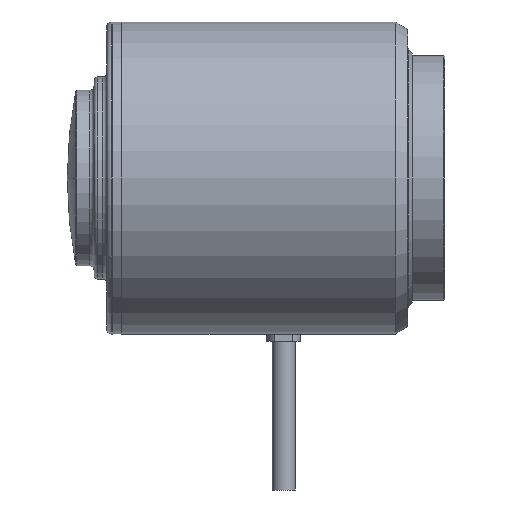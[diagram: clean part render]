
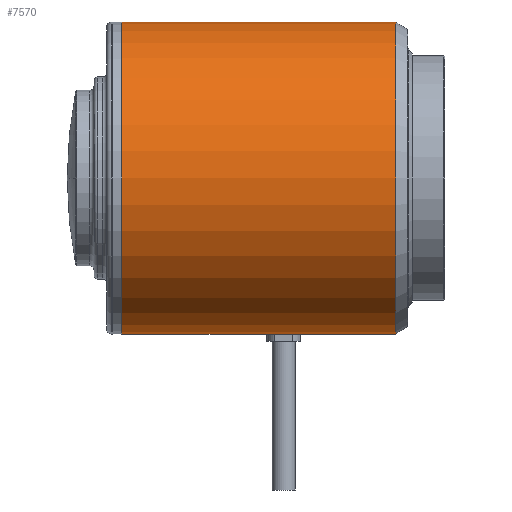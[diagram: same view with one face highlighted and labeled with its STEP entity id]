
A CAD part, left-side view. The second image highlights one B-rep face of the part: STEP entity #7570.
In plain terms, the highlighted cylindrical face has radius 52.5 mm (diameter 105 mm), a partial arc.
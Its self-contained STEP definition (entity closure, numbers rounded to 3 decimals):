
#287 = CARTESIAN_POINT ( 'NONE',  ( 0., 45.2, 0. ) ) ;
#408 = EDGE_CURVE ( 'NONE', #4599, #11577, #4860, .T. ) ;
#639 = CARTESIAN_POINT ( 'NONE',  ( 0., 45.2, -52.5 ) ) ;
#915 = VERTEX_POINT ( 'NONE', #639 ) ;
#1024 = CARTESIAN_POINT ( 'NONE',  ( 0., -47., 52.5 ) ) ;
#1039 = DIRECTION ( 'NONE',  ( 0., 1., 0. ) ) ;
#2690 = CARTESIAN_POINT ( 'NONE',  ( 0., 45.2, 52.5 ) ) ;
#2697 = ORIENTED_EDGE ( 'NONE', *, *, #7797, .T. ) ;
#2712 = EDGE_LOOP ( 'NONE', ( #2742, #9280, #2697, #9731 ) ) ;
#2742 = ORIENTED_EDGE ( 'NONE', *, *, #5867, .F. ) ;
#2790 = DIRECTION ( 'NONE',  ( 0., 1., 0. ) ) ;
#2900 = LINE ( 'NONE', #3799, #4751 ) ;
#3285 = CYLINDRICAL_SURFACE ( 'NONE', #8695, 52.5 ) ;
#3569 = LINE ( 'NONE', #9143, #4295 ) ;
#3799 = CARTESIAN_POINT ( 'NONE',  ( 0., 63.5, -52.5 ) ) ;
#3846 = CARTESIAN_POINT ( 'NONE',  ( 0., -47., -52.5 ) ) ;
#4295 = VECTOR ( 'NONE', #2790, 1000. ) ;
#4451 = DIRECTION ( 'NONE',  ( 0., 0., 1. ) ) ;
#4554 = AXIS2_PLACEMENT_3D ( 'NONE', #287, #5587, #11154 ) ;
#4599 = VERTEX_POINT ( 'NONE', #3846 ) ;
#4618 = AXIS2_PLACEMENT_3D ( 'NONE', #8052, #9910, #4451 ) ;
#4751 = VECTOR ( 'NONE', #1039, 1000. ) ;
#4859 = DIRECTION ( 'NONE',  ( 0., 1., 0. ) ) ;
#4860 = CIRCLE ( 'NONE', #4618, 52.5 ) ;
#5035 = DIRECTION ( 'NONE',  ( 0., 0., 1. ) ) ;
#5243 = EDGE_CURVE ( 'NONE', #915, #6105, #9147, .T. ) ;
#5587 = DIRECTION ( 'NONE',  ( 0., 1., 0. ) ) ;
#5815 = CARTESIAN_POINT ( 'NONE',  ( 0., 63.5, 0. ) ) ;
#5867 = EDGE_CURVE ( 'NONE', #4599, #915, #2900, .T. ) ;
#6105 = VERTEX_POINT ( 'NONE', #2690 ) ;
#7570 = ADVANCED_FACE ( 'NONE', ( #8742 ), #3285, .T. ) ;
#7797 = EDGE_CURVE ( 'NONE', #11577, #6105, #3569, .T. ) ;
#8052 = CARTESIAN_POINT ( 'NONE',  ( 0., -47., 0. ) ) ;
#8695 = AXIS2_PLACEMENT_3D ( 'NONE', #5815, #4859, #5035 ) ;
#8742 = FACE_OUTER_BOUND ( 'NONE', #2712, .T. ) ;
#9143 = CARTESIAN_POINT ( 'NONE',  ( 0., 63.5, 52.5 ) ) ;
#9147 = CIRCLE ( 'NONE', #4554, 52.5 ) ;
#9280 = ORIENTED_EDGE ( 'NONE', *, *, #408, .T. ) ;
#9731 = ORIENTED_EDGE ( 'NONE', *, *, #5243, .F. ) ;
#9910 = DIRECTION ( 'NONE',  ( 0., 1., 0. ) ) ;
#11154 = DIRECTION ( 'NONE',  ( 0., 0., 1. ) ) ;
#11577 = VERTEX_POINT ( 'NONE', #1024 ) ;
